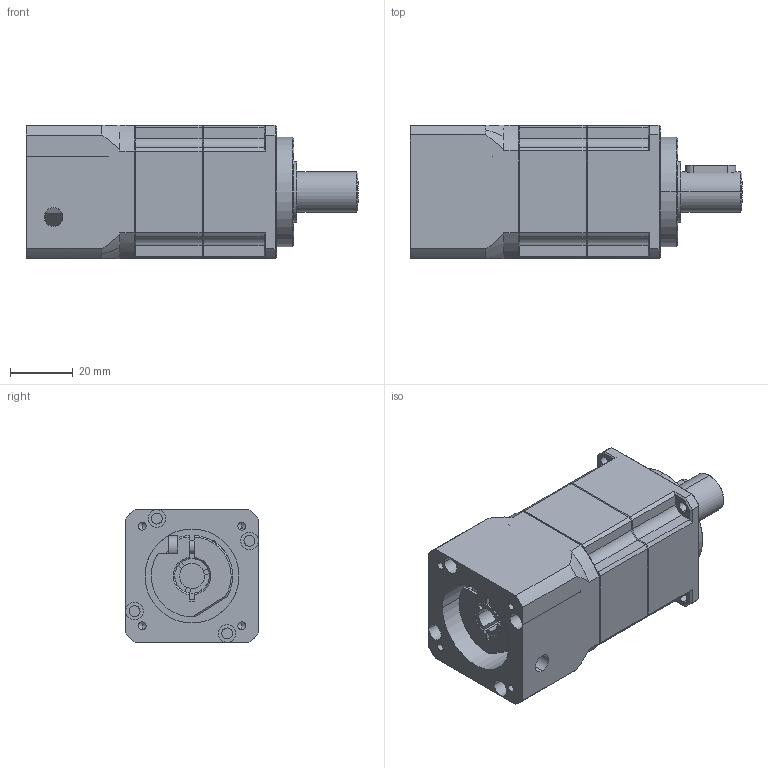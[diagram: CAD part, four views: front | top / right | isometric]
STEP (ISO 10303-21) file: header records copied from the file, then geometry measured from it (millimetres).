
FILE_DESCRIPTION (( 'STEP AP214' ), '1' );
FILE_NAME ('PLG42-L2-8-30-45.STEP', '2022-04-23T05:40:01', ( '' ), ( '' ), 'SwSTEP 2.0', 'SolidWorks 2017', '' );
FILE_SCHEMA (( 'AUTOMOTIVE_DESIGN' ));
Length unit declared in the file: millimetre
Products named in the file (6): PLG42-L2-8-30-45; 5X5X16; PLG42-WZZ-8-30-M3-45-LR28_1123; M3x12; PLG42-SJH(坶踡遠謂11); PLG42-CQ01_PD42-CQ01+CQ02
Assembly tree (5 placements, depth 2):
  PLG42-L2-8-30-45
    PLG42-CQ01_PD42-CQ01+CQ02
    PLG42-WZZ-8-30-M3-45-LR28_1123
    PLG42-SJH(坶踡遠謂11)
    M3x12
    5X5X16
Bounding box: 106 x 42.6 x 42.6 mm (x, y, z)
Volume: 127250.4 mm3; surface area: 32405.4 mm2
Topology: 5 solids, 6 shells, 320 faces, 805 edges, 512 vertices
Faces by surface type: plane 128, cylinder 127, cone 57, bspline 8
Entity records: 10360 total; most frequent: CARTESIAN_POINT 2378, DIRECTION 1668, ORIENTED_EDGE 1590, EDGE_CURVE 795, AXIS2_PLACEMENT_3D 650, VERTEX_POINT 512, EDGE_LOOP 369, VECTOR 368
